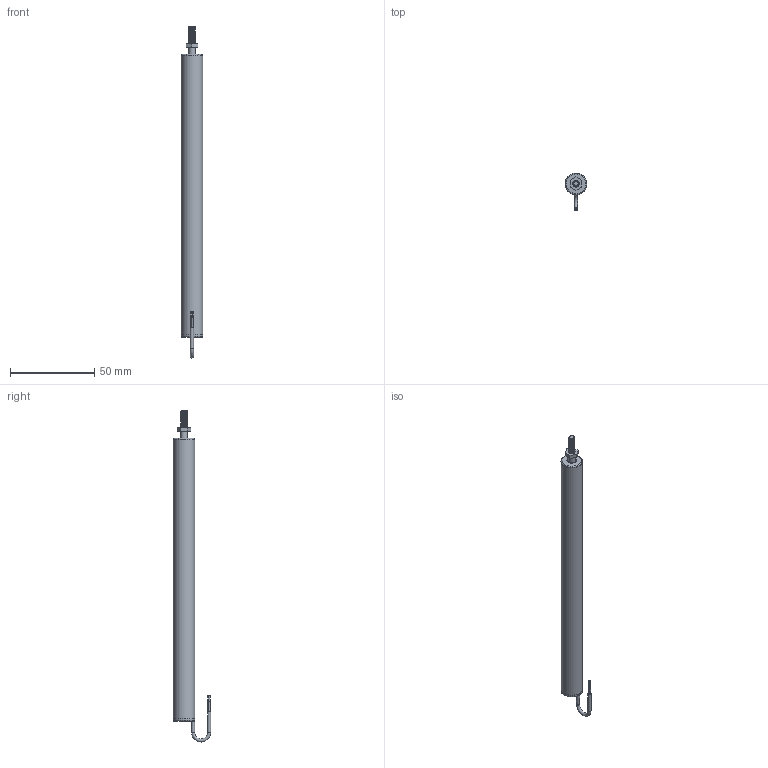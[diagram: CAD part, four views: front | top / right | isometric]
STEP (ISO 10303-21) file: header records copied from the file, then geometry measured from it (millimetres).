
FILE_DESCRIPTION(/* description */ (''),/* implementation_level */ '2;1');
FILE_NAME(/* name */ 'ILPS-13Z-150-A-00-YY-S Assembly (wrapped).iam.stp',/* time_stamp */ '2023-05-05T16:04:49-04:00',/* author */ ('TSC_Grant'),/* organization */ (''),/* preprocessor_version */ 'ST-DEVELOPER v19.2',/* originating_system */ 'Autodesk Inventor 2024',/* authorisation */ '');
FILE_SCHEMA (('AUTOMOTIVE_DESIGN { 1 0 10303 214 3 1 1 }'));
Length unit declared in the file: inch
Products named in the file (5): 3020-0017-XX Assembly_SW; 3020-0017-XX Sensor Tube_SW; 3020-0017-XX Shaft_SW; 3020-0017-XX Wire_SW; BS 4183 - M4
Assembly tree (4 placements, depth 2):
  3020-0017-XX Assembly_SW
    3020-0017-XX Sensor Tube_SW
    3020-0017-XX Shaft_SW
    3020-0017-XX Wire_SW
    BS 4183 - M4
Bounding box: 12.7 x 22.14 x 196.66 mm (x, y, z)
Volume: 4469.5 mm3; surface area: 21852.9 mm2
Topology: 7 solids, 7 shells, 64 faces, 122 edges, 80 vertices
Faces by surface type: plane 32, cylinder 22, cone 4, torus 3, bspline 3
Full cylindrical faces by diameter (mm): 0.508 x4, 0.635 x4, 1.857 x2, 3.242 x1, 3.988 x1, 4.826 x1, 5.588 x3, 12.446 x1, 12.7 x3
Entity records: 3534 total; most frequent: CARTESIAN_POINT 1890, DIRECTION 304, ORIENTED_EDGE 244, AXIS2_PLACEMENT_3D 127, EDGE_CURVE 122, EDGE_LOOP 82, VERTEX_POINT 80, FACE_OUTER_BOUND 64
